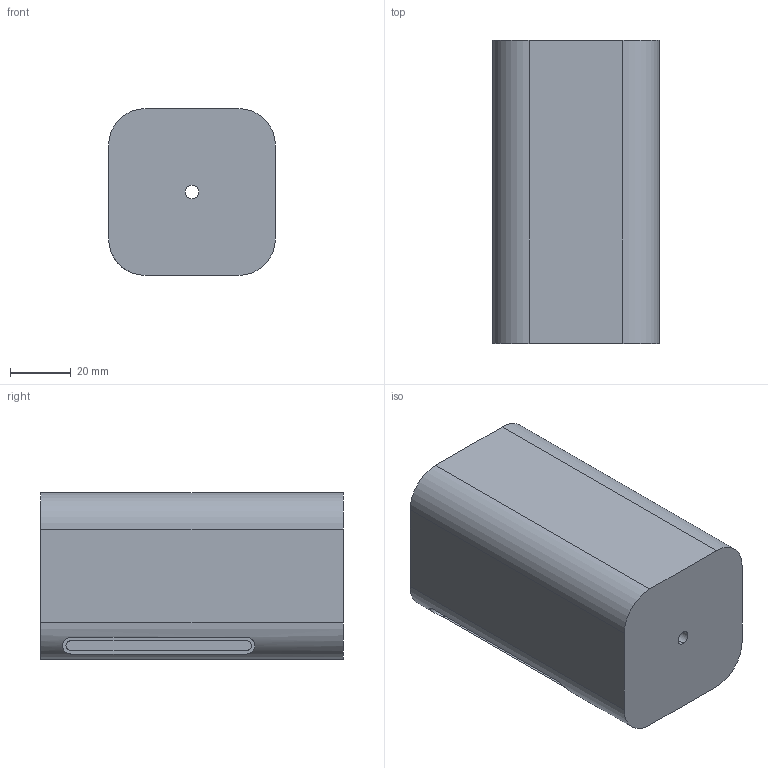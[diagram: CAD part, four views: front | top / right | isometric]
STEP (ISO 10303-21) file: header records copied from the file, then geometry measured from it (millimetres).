
FILE_DESCRIPTION (( 'STEP AP214' ), '1' );
FILE_NAME ('11.STEP', '2023-05-04T08:10:23', ( 'ay' ), ( '' ), 'SwSTEP 2.0', 'SolidWorks 2020', '' );
FILE_SCHEMA (( 'AUTOMOTIVE_DESIGN' ));
Length unit declared in the file: millimetre
Products named in the file (1): 11
Bounding box: 55 x 100 x 55 mm (x, y, z)
Volume: 188131.5 mm3; surface area: 36328.4 mm2
Topology: 1 solids, 1 shells, 28 faces, 75 edges, 50 vertices
Faces by surface type: plane 16, cylinder 12
Entity records: 983 total; most frequent: CARTESIAN_POINT 218, DIRECTION 153, ORIENTED_EDGE 150, EDGE_CURVE 75, VECTOR 51, AXIS2_PLACEMENT_3D 51, LINE 51, VERTEX_POINT 50
